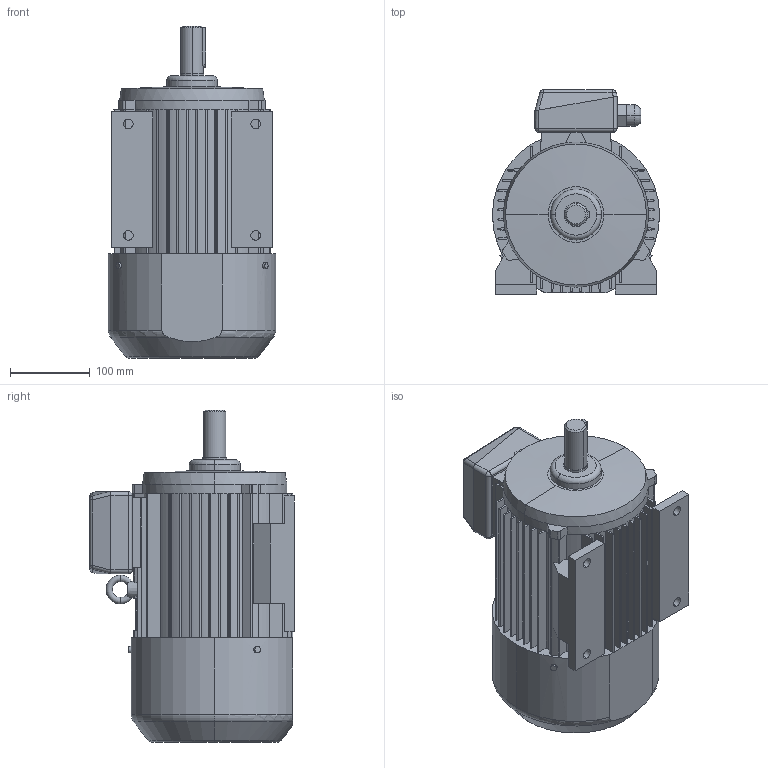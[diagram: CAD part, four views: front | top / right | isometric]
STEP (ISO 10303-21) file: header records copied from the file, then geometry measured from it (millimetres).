
FILE_DESCRIPTION (( 'STEP AP203' ), '1' );
FILE_NAME ('3SIE100L4A,4B.STEP', '2016-02-08T12:10:21', ( 'Indukta' ), ( 'Celma Indukta S.A.' ), 'SwSTEP 2.0', 'SolidWorks 2003064', '' );
FILE_SCHEMA (( 'CONFIG_CONTROL_DESIGN' ));
Length unit declared in the file: millimetre
Products named in the file (1): 3SIE100L4A,4B
Bounding box: 210 x 257 x 417 mm (x, y, z)
Volume: 11076685.8 mm3; surface area: 493747.3 mm2
Topology: 1 solids, 1 shells, 572 faces, 1554 edges, 989 vertices
Faces by surface type: plane 296, cylinder 165, bspline 78, torus 15, cone 10, sphere 8
Entity records: 24352 total; most frequent: CARTESIAN_POINT 10138, ORIENTED_EDGE 3092, DIRECTION 2772, EDGE_CURVE 1546, VERTEX_POINT 989, AXIS2_PLACEMENT_3D 929, LINE 914, VECTOR 914
